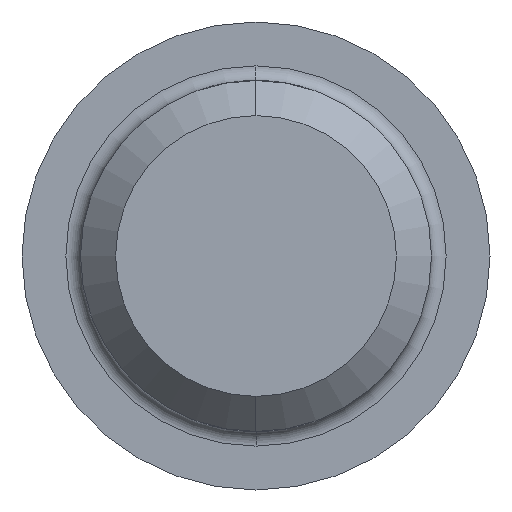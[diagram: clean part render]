
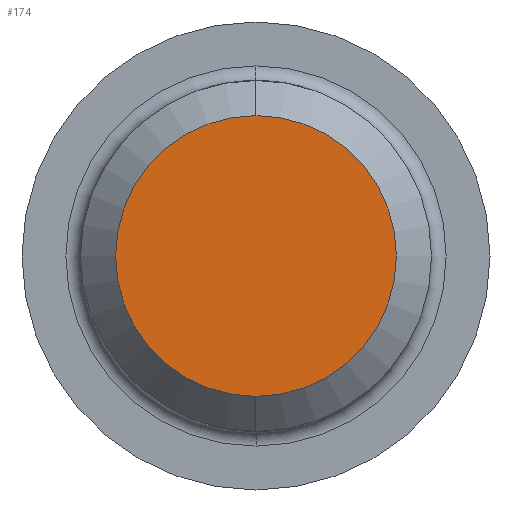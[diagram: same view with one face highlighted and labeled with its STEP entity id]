
A CAD part, left-side view. The second image highlights one B-rep face of the part: STEP entity #174.
In plain terms, the highlighted planar face has unit normal (-1, 0, 0).
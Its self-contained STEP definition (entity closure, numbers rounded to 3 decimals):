
#124 = VERTEX_POINT ( 'NONE', #402 ) ;
#133 = EDGE_CURVE ( 'NONE', #166, #124, #384, .T. ) ;
#166 = VERTEX_POINT ( 'NONE', #581 ) ;
#167 = EDGE_CURVE ( 'NONE', #124, #166, #579, .T. ) ;
#172 = EDGE_LOOP ( 'NONE', ( #175, #176 ) ) ;
#174 = ADVANCED_FACE ( 'NONE', ( #477 ), #476, .F. ) ;
#175 = ORIENTED_EDGE ( 'NONE', *, *, #133, .T. ) ;
#176 = ORIENTED_EDGE ( 'NONE', *, *, #167, .T. ) ;
#349 = DIRECTION ( 'NONE',  ( 0., 0., 1. ) ) ;
#350 = AXIS2_PLACEMENT_3D ( 'NONE', #396, #385, #349 ) ;
#384 = CIRCLE ( 'NONE', #350, 4.8 ) ;
#385 = DIRECTION ( 'NONE',  ( -1., 0., 0. ) ) ;
#396 = CARTESIAN_POINT ( 'NONE',  ( -25., 0., 0. ) ) ;
#402 = CARTESIAN_POINT ( 'NONE',  ( -25., 0., 4.8 ) ) ;
#462 = DIRECTION ( 'NONE',  ( 0., 0., -1. ) ) ;
#463 = DIRECTION ( 'NONE',  ( 1., 0., 0. ) ) ;
#467 = AXIS2_PLACEMENT_3D ( 'NONE', #471, #463, #462 ) ;
#471 = CARTESIAN_POINT ( 'NONE',  ( -25., 4.8, 0. ) ) ;
#476 = PLANE ( 'NONE',  #467 ) ;
#477 = FACE_OUTER_BOUND ( 'NONE', #172, .T. ) ;
#568 = DIRECTION ( 'NONE',  ( 0., 0., 1. ) ) ;
#569 = DIRECTION ( 'NONE',  ( -1., 0., 0. ) ) ;
#570 = CARTESIAN_POINT ( 'NONE',  ( -25., 0., 0. ) ) ;
#571 = AXIS2_PLACEMENT_3D ( 'NONE', #570, #569, #568 ) ;
#579 = CIRCLE ( 'NONE', #571, 4.8 ) ;
#581 = CARTESIAN_POINT ( 'NONE',  ( -25., 0., -4.8 ) ) ;
